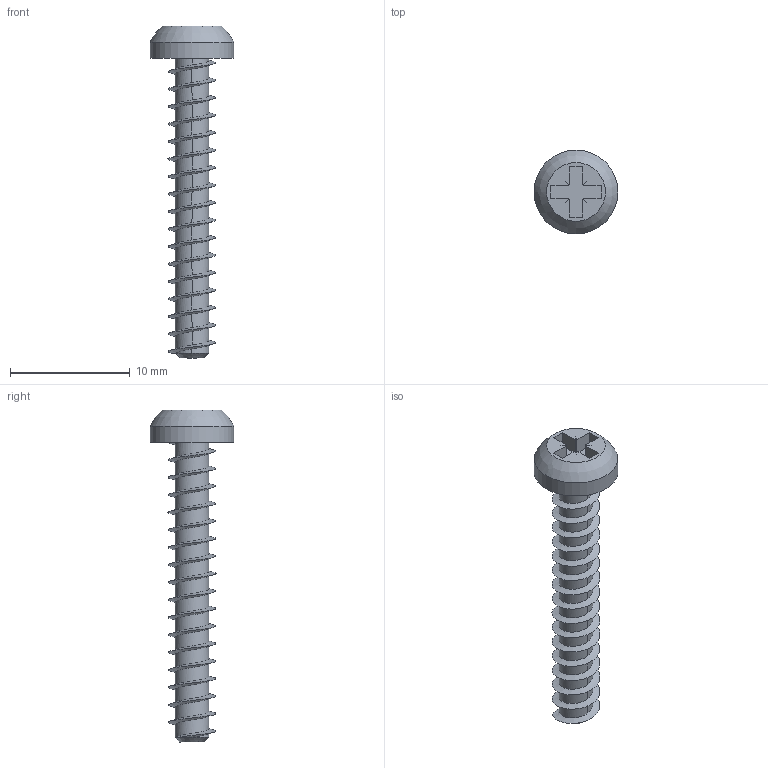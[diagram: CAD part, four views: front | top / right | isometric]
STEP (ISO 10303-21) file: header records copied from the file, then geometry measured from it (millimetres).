
FILE_DESCRIPTION(/* description */ (''),/* implementation_level */ '2;1');
FILE_NAME(/* name */ 'Pan Head Polyfix Plastic Self Tapping Screw - 4mm - 25mm.step',/* time_stamp */ '2025-08-27T20:30:53+03:00',/* author */ (''),/* organization */ (''),/* preprocessor_version */ 'ST-DEVELOPER v20.1',/* originating_system */ 'Autodesk Translation Framework v14.10.0.0',/* authorisation */ '');
FILE_SCHEMA (('AUTOMOTIVE_DESIGN { 1 0 10303 214 3 1 1 }'));
Length unit declared in the file: millimetre
Products named in the file (1): SPP45 BASE
Bounding box: 7 x 7 x 27.7 mm (x, y, z)
Volume: 252.6 mm3; surface area: 537.5 mm2
Topology: 1 solids, 1 shells, 61 faces, 179 edges, 122 vertices
Faces by surface type: plane 37, cylinder 20, bspline 2, sphere 1, cone 1
Full cylindrical faces by diameter (mm): 2.81 x15, 7 x1
Entity records: 11726 total; most frequent: CARTESIAN_POINT 10145, ORIENTED_EDGE 358, DIRECTION 262, EDGE_CURVE 179, VERTEX_POINT 122, LINE 116, VECTOR 116, AXIS2_PLACEMENT_3D 73
